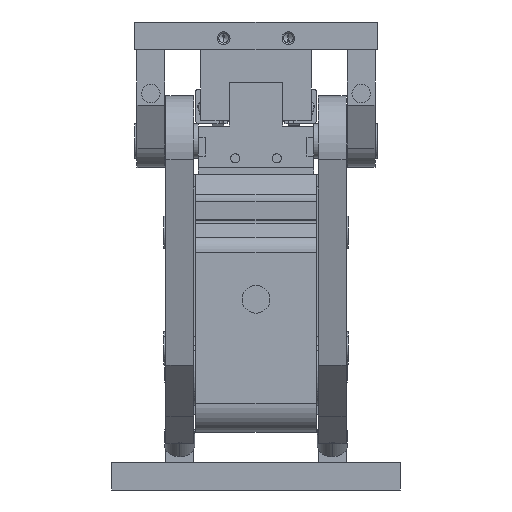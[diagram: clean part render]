
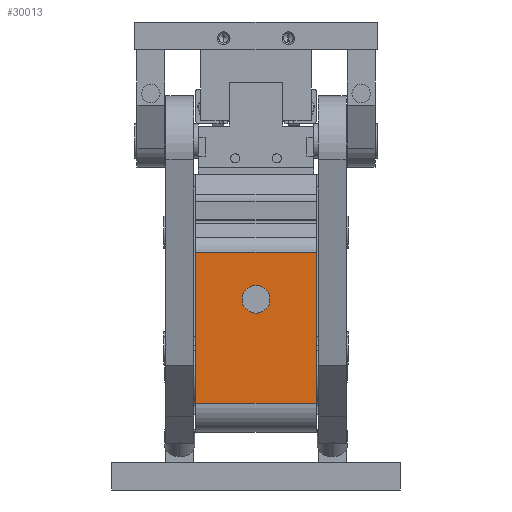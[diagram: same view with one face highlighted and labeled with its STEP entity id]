
A CAD part, left-side view. The second image highlights one B-rep face of the part: STEP entity #30013.
In plain terms, the highlighted planar face has unit normal (-1, 0, 0) as drawn and (0, 1, 0) by its records, which use the part's own axes.
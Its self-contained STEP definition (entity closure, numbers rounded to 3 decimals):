
#37 = VECTOR ( 'NONE', #12791, 1000. ) ;
#388 = CARTESIAN_POINT ( 'NONE',  ( -14., 51.5, 27. ) ) ;
#659 = CARTESIAN_POINT ( 'NONE',  ( -14., 51.5, -26. ) ) ;
#1628 = CARTESIAN_POINT ( 'NONE',  ( 51.4, 51.5, -26. ) ) ;
#1657 = DIRECTION ( 'NONE',  ( 0., 0., -1. ) ) ;
#2876 = LINE ( 'NONE', #32596, #7402 ) ;
#3599 = DIRECTION ( 'NONE',  ( 0., 0., -1. ) ) ;
#3966 = VECTOR ( 'NONE', #37310, 1000. ) ;
#6170 = EDGE_CURVE ( 'NONE', #29695, #9476, #21195, .T. ) ;
#6769 = EDGE_CURVE ( 'NONE', #34592, #23028, #22816, .T. ) ;
#7346 = VECTOR ( 'NONE', #28660, 1000. ) ;
#7402 = VECTOR ( 'NONE', #14974, 1000. ) ;
#7616 = CARTESIAN_POINT ( 'NONE',  ( 31., 51.5, 0. ) ) ;
#8913 = VERTEX_POINT ( 'NONE', #34622 ) ;
#9476 = VERTEX_POINT ( 'NONE', #24497 ) ;
#9703 = AXIS2_PLACEMENT_3D ( 'NONE', #388, #36913, #3599 ) ;
#10133 = FACE_OUTER_BOUND ( 'NONE', #17271, .T. ) ;
#12791 = DIRECTION ( 'NONE',  ( 1., 0., 0. ) ) ;
#13235 = ORIENTED_EDGE ( 'NONE', *, *, #27957, .F. ) ;
#13440 = CARTESIAN_POINT ( 'NONE',  ( 51.4, 51.5, 26. ) ) ;
#14974 = DIRECTION ( 'NONE',  ( -1., 0., 0. ) ) ;
#14995 = ORIENTED_EDGE ( 'NONE', *, *, #24157, .F. ) ;
#15731 = CIRCLE ( 'NONE', #38041, 4. ) ;
#17188 = ORIENTED_EDGE ( 'NONE', *, *, #31831, .F. ) ;
#17271 = EDGE_LOOP ( 'NONE', ( #13235, #14995, #17188, #21888 ) ) ;
#18193 = VERTEX_POINT ( 'NONE', #27772 ) ;
#19787 = DIRECTION ( 'NONE',  ( 0., 1., 0. ) ) ;
#21195 = CIRCLE ( 'NONE', #28259, 4. ) ;
#21780 = LINE ( 'NONE', #659, #37 ) ;
#21888 = ORIENTED_EDGE ( 'NONE', *, *, #6769, .T. ) ;
#22194 = CARTESIAN_POINT ( 'NONE',  ( 31., 51.5, 4. ) ) ;
#22816 = LINE ( 'NONE', #25469, #7346 ) ;
#22823 = EDGE_LOOP ( 'NONE', ( #26579, #36645 ) ) ;
#23028 = VERTEX_POINT ( 'NONE', #1628 ) ;
#23233 = DIRECTION ( 'NONE',  ( 0., 1., 0. ) ) ;
#24157 = EDGE_CURVE ( 'NONE', #8913, #18193, #33730, .T. ) ;
#24497 = CARTESIAN_POINT ( 'NONE',  ( 31., 51.5, -4. ) ) ;
#24729 = FACE_BOUND ( 'NONE', #22823, .T. ) ;
#25469 = CARTESIAN_POINT ( 'NONE',  ( 51.4, 51.5, 27. ) ) ;
#26264 = CARTESIAN_POINT ( 'NONE',  ( 31., 51.5, 0. ) ) ;
#26579 = ORIENTED_EDGE ( 'NONE', *, *, #34369, .F. ) ;
#27728 = PLANE ( 'NONE',  #9703 ) ;
#27772 = CARTESIAN_POINT ( 'NONE',  ( -14., 51.5, -26. ) ) ;
#27957 = EDGE_CURVE ( 'NONE', #18193, #23028, #21780, .T. ) ;
#28259 = AXIS2_PLACEMENT_3D ( 'NONE', #7616, #19787, #1657 ) ;
#28660 = DIRECTION ( 'NONE',  ( 0., 0., -1. ) ) ;
#29695 = VERTEX_POINT ( 'NONE', #22194 ) ;
#30013 = ADVANCED_FACE ( 'NONE', ( #24729, #10133 ), #27728, .F. ) ;
#31831 = EDGE_CURVE ( 'NONE', #34592, #8913, #2876, .T. ) ;
#32596 = CARTESIAN_POINT ( 'NONE',  ( -14., 51.5, 26. ) ) ;
#32673 = DIRECTION ( 'NONE',  ( 0., 0., -1. ) ) ;
#33730 = LINE ( 'NONE', #37117, #3966 ) ;
#34369 = EDGE_CURVE ( 'NONE', #9476, #29695, #15731, .T. ) ;
#34592 = VERTEX_POINT ( 'NONE', #13440 ) ;
#34622 = CARTESIAN_POINT ( 'NONE',  ( -14., 51.5, 26. ) ) ;
#36645 = ORIENTED_EDGE ( 'NONE', *, *, #6170, .F. ) ;
#36913 = DIRECTION ( 'NONE',  ( 0., -1., 0. ) ) ;
#37117 = CARTESIAN_POINT ( 'NONE',  ( -14., 51.5, 27. ) ) ;
#37310 = DIRECTION ( 'NONE',  ( 0., 0., -1. ) ) ;
#38041 = AXIS2_PLACEMENT_3D ( 'NONE', #26264, #23233, #32673 ) ;
